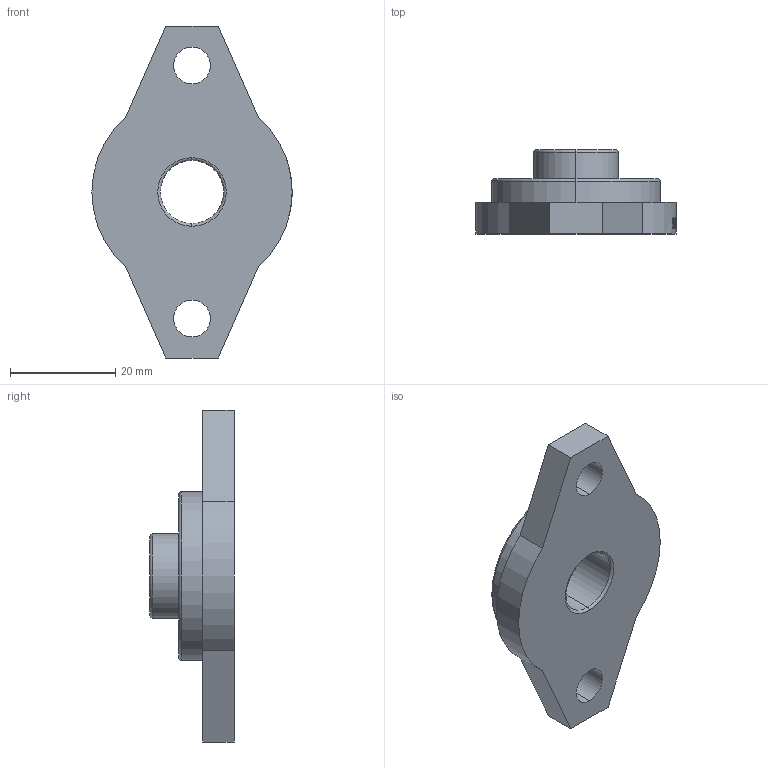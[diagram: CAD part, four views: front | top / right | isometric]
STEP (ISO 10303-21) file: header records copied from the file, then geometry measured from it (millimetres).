
FILE_DESCRIPTION (( 'STEP AP203' ), '1' );
FILE_NAME ('12.STEP', '2017-08-14T11:02:47', ( '' ), ( '' ), 'SwSTEP 2.0', 'SolidWorks 2014', '' );
FILE_SCHEMA (( 'CONFIG_CONTROL_DESIGN' ));
Length unit declared in the file: millimetre
Products named in the file (1): 12
Bounding box: 38 x 16 x 63 mm (x, y, z)
Volume: 10595.5 mm3; surface area: 5859.4 mm2
Topology: 1 solids, 1 shells, 119 faces, 311 edges, 204 vertices
Faces by surface type: plane 56, bspline 32, cylinder 21, torus 10
Entity records: 7276 total; most frequent: CARTESIAN_POINT 4497, ORIENTED_EDGE 622, DIRECTION 458, EDGE_CURVE 311, VERTEX_POINT 204, AXIS2_PLACEMENT_3D 174, EDGE_LOOP 135, ADVANCED_FACE 119
